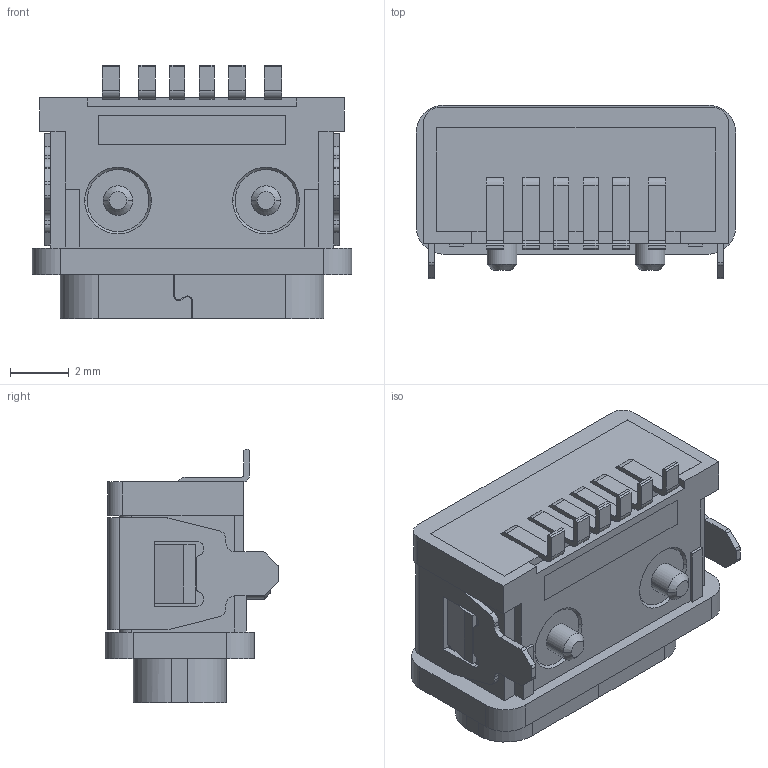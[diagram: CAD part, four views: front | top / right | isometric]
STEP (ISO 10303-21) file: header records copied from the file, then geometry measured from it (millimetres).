
FILE_DESCRIPTION((''),'2;1');
FILE_NAME('1020039','2023-02-24T16:27:35',('Administrator'),(''),'CREO PARAMETRIC BY PTC INC, 2019080','CREO PARAMETRIC BY PTC INC, 2019080','');
FILE_SCHEMA(('CONFIG_CONTROL_DESIGN'));
Length unit declared in the file: millimetre
Products named in the file (1): 1020039
Bounding box: 10.84 x 5.9 x 8.6 mm (x, y, z)
Volume: 178.1 mm3; surface area: 904.9 mm2
Topology: 1 solids, 2 shells, 814 faces, 2291 edges, 1511 vertices
Faces by surface type: plane 636, cylinder 154, cone 24
Entity records: 26110 total; most frequent: CARTESIAN_POINT 4669, ORIENTED_EDGE 4568, DIRECTION 4252, EDGE_CURVE 2291, VECTOR 1936, LINE 1936, VERTEX_POINT 1511, AXIS2_PLACEMENT_3D 1158
